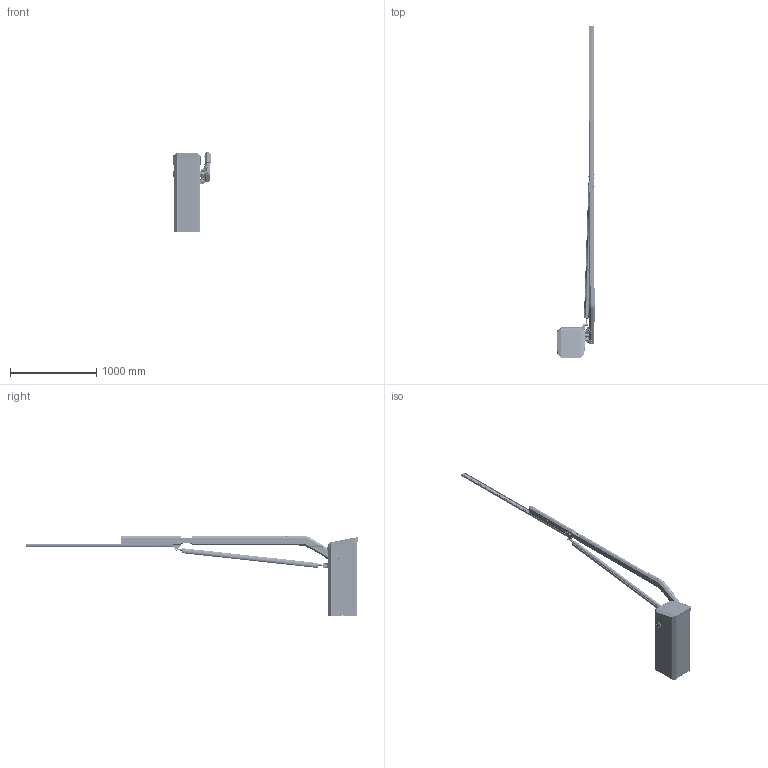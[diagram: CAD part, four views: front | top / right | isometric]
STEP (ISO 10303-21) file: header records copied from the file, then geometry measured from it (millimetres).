
FILE_DESCRIPTION(/* description */ ('Unknown'),/* implementation_level */ '2;1');
FILE_NAME(/* name */ '55860012',/* time_stamp */ '2020-07-15T16:34:58+02:00',/* author */ ('Unknown'),/* organization */ ('Unknown'),/* preprocessor_version */ 'ST-DEVELOPER v16.7',/* originating_system */ 'DEX',/* authorisation */ $);
FILE_SCHEMA (('AUTOMOTIVE_DESIGN {1 0 10303 214 3 1 1}'));
Products named in the file (85): 55860012; 10525083; 20635347; 20115042; 34635015; 20345374; 34775002; 34915000; 20115041; 20045100; 55860003_Baum 1296_oa_0; 55155391_1575_oa_1; 55155391_1575_oa_2; 20185227; 20185227_oa_3; 20185229; 20185229_oa_4; 10435540; 30195029; 20515008; 20125012; 20175122; 35000010; 33135000; 20590069; 20340153; 20620042; 20590069_299_420_Naht 3_oa_5; 20590069_299_420_Naht 3_oa_6; 20590069_299_420_Naht 3_oa_7; ACCESS-L-HUELLE; 10435375; 20435695; 34685017; 34685017a; 34685017c; 34685017b; 34685017d; 20585064; 20195087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
Assembly tree (137 placements, depth 5):
  55860012
    10525083
      20635347
      20115042
      34635015  x10
      20345374  x2
      34775002  x8
      34915000  x2
      20115041  x2
    20045100
    55860003_Baum 1296_oa_0
      55155391_1575_oa_1
        55155391_1575_oa_2
        34915000  x2
        20185227  x2
        20185227_oa_3
        20185229  x2
        20185229_oa_4
    10435540
      30195029  x4
      20515008  x2
      20125012
      20175122
      35000010  x2
      33135000  x2
    20590069
      20340153
      20620042
      20590069_299_420_Naht 3_oa_5
      20590069_299_420_Naht 3_oa_6
      20590069_299_420_Naht 3_oa_7
    ACCESS-L-HUELLE
      10435375
        20435695
        34685017
          34685017a
          34685017c
          34685017b
          34685017d
        20585064
      20195087  x2
      20435694
      20775048  x2
      10335028  x2
        20695070
        20375010
      20165183
      10085135
        20695057
        34745013  x5
        20345347
        20345348
        10085135-Dichtung
      20415077
        20415077a
        20415077b
      20695069  x4
      30545011
      21085010
      21085009
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Bounding box: 434.26 x 3846.9 x 930.61 mm (x, y, z)
Volume: 16908968.5 mm3; surface area: 7886630.1 mm2
Topology: 124 solids, 124 shells, 12839 faces, 31827 edges, 19177 vertices
Faces by surface type: cylinder 4333, plane 4299, bspline 2768, torus 677, cone 594, sphere 168
Full cylindrical faces by diameter (mm): 0.5 x1, 1.5 x3, 1.8 x2, 3 x6, 3.2 x1, 3.5 x8, 3.6 x4, 3.65 x4, 3.9 x6, 4 x1, 4.134 x2, 4.773 x5, 4.9 x3, 4.917 x26, 5.5 x2, 6 x31, 6.4 x12, 6.466 x4, 6.5 x12, 6.647 x16, 7 x4, 7.1 x2, 8 x8, 9 x22, 9.853 x2, 10 x18, 10.106 x4, 10.2 x1, 10.4 x1, 10.5 x12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
Entity records: 286712 total; most frequent: CARTESIAN_POINT 114193, ORIENTED_EDGE 34872, DIRECTION 32688, EDGE_CURVE 17436, AXIS2_PLACEMENT_3D 11949, VERTEX_POINT 10940, LINE 8790, VECTOR 8790
